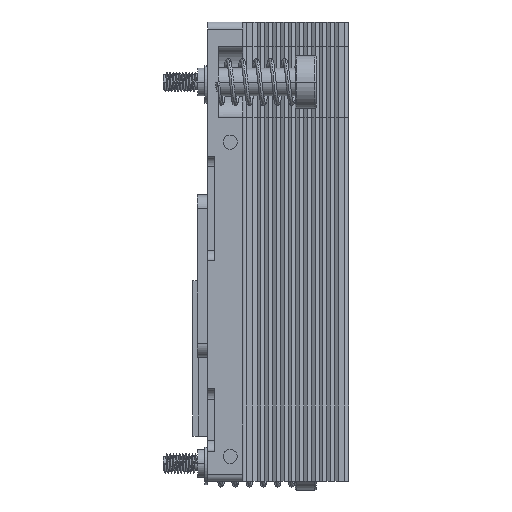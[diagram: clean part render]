
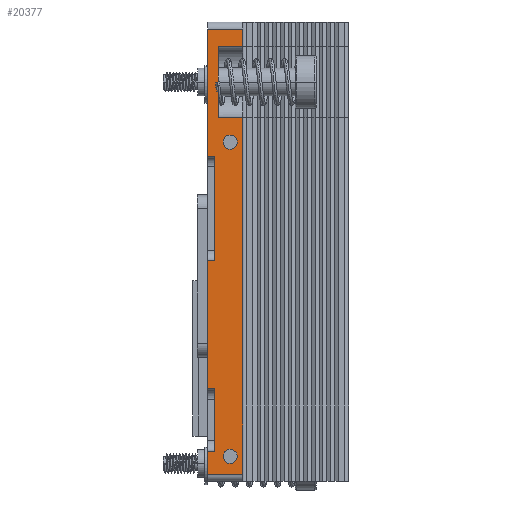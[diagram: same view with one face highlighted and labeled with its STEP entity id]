
A CAD part, left-side view. The second image highlights one B-rep face of the part: STEP entity #20377.
In plain terms, the highlighted planar face has unit normal (-1, 0, 0) as drawn and (1, 0, 0) by its records, which use the part's own axes.
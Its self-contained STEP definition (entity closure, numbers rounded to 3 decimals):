
#2918=DIRECTION('',(0.,0.,1.));
#2919=VECTOR('',#2918,50.5);
#2920=CARTESIAN_POINT('',(35.,8.,-31.5));
#2921=LINE('',#2920,#2919);
#2939=DIRECTION('',(0.,0.,1.));
#2940=VECTOR('',#2939,2.5);
#2941=CARTESIAN_POINT('',(35.,8.,29.));
#2942=LINE('',#2941,#2940);
#3401=DIRECTION('',(0.,-1.,0.));
#3402=VECTOR('',#3401,5.);
#3403=CARTESIAN_POINT('',(35.,8.,-31.5));
#3404=LINE('',#3403,#3402);
#3405=DIRECTION('',(0.,0.,1.));
#3406=VECTOR('',#3405,3.267);
#3407=CARTESIAN_POINT('',(35.,3.,-31.5));
#3408=LINE('',#3407,#3406);
#3409=DIRECTION('',(0.,1.,0.));
#3410=VECTOR('',#3409,1.);
#3411=CARTESIAN_POINT('',(35.,3.,-28.233));
#3412=LINE('',#3411,#3410);
#3413=DIRECTION('',(0.,0.,-1.));
#3414=VECTOR('',#3413,8.8);
#3415=CARTESIAN_POINT('',(35.,4.,-19.433));
#3416=LINE('',#3415,#3414);
#3417=DIRECTION('',(0.,1.,0.));
#3418=VECTOR('',#3417,1.);
#3419=CARTESIAN_POINT('',(35.,3.,-19.433));
#3420=LINE('',#3419,#3418);
#3421=DIRECTION('',(0.,0.,1.));
#3422=VECTOR('',#3421,18.136);
#3423=CARTESIAN_POINT('',(35.,3.,-19.433));
#3424=LINE('',#3423,#3422);
#3425=DIRECTION('',(0.,1.,0.));
#3426=VECTOR('',#3425,1.);
#3427=CARTESIAN_POINT('',(35.,3.,-1.297));
#3428=LINE('',#3427,#3426);
#3429=DIRECTION('',(0.,0.,-1.));
#3430=VECTOR('',#3429,14.8);
#3431=CARTESIAN_POINT('',(35.,4.,13.503));
#3432=LINE('',#3431,#3430);
#3433=DIRECTION('',(0.,1.,0.));
#3434=VECTOR('',#3433,1.);
#3435=CARTESIAN_POINT('',(35.,3.,13.503));
#3436=LINE('',#3435,#3434);
#3437=DIRECTION('',(0.,0.,1.));
#3438=VECTOR('',#3437,17.997);
#3439=CARTESIAN_POINT('',(35.,3.,13.503));
#3440=LINE('',#3439,#3438);
#3441=DIRECTION('',(0.,1.,0.));
#3442=VECTOR('',#3441,5.);
#3443=CARTESIAN_POINT('',(35.,3.,31.5));
#3444=LINE('',#3443,#3442);
#3445=DIRECTION('',(0.,-1.,0.));
#3446=VECTOR('',#3445,3.5);
#3447=CARTESIAN_POINT('',(35.,8.,29.));
#3448=LINE('',#3447,#3446);
#3449=DIRECTION('',(0.,0.,1.));
#3450=VECTOR('',#3449,10.);
#3451=CARTESIAN_POINT('',(35.,4.5,19.));
#3452=LINE('',#3451,#3450);
#3453=DIRECTION('',(0.,-1.,0.));
#3454=VECTOR('',#3453,3.5);
#3455=CARTESIAN_POINT('',(35.,8.,19.));
#3456=LINE('',#3455,#3454);
#3457=CARTESIAN_POINT('',(35.,6.2,-29.));
#3458=DIRECTION('',(1.,0.,0.));
#3459=DIRECTION('',(0.,0.,-1.));
#3460=AXIS2_PLACEMENT_3D('',#3457,#3458,#3459);
#3462=CARTESIAN_POINT('',(35.,6.2,-29.));
#3463=DIRECTION('',(1.,0.,0.));
#3464=DIRECTION('',(0.,0.,1.));
#3465=AXIS2_PLACEMENT_3D('',#3462,#3463,#3464);
#3467=CARTESIAN_POINT('',(35.,6.2,15.5));
#3468=DIRECTION('',(1.,0.,0.));
#3469=DIRECTION('',(0.,0.,-1.));
#3470=AXIS2_PLACEMENT_3D('',#3467,#3468,#3469);
#3472=CARTESIAN_POINT('',(35.,6.2,15.5));
#3473=DIRECTION('',(1.,0.,0.));
#3474=DIRECTION('',(0.,0.,1.));
#3475=AXIS2_PLACEMENT_3D('',#3472,#3473,#3474);
#16536=CARTESIAN_POINT('',(35.,4.5,19.));
#16537=VERTEX_POINT('',#16536);
#16538=CARTESIAN_POINT('',(35.,4.5,29.));
#16539=VERTEX_POINT('',#16538);
#16968=CARTESIAN_POINT('',(35.,3.,-19.433));
#16969=VERTEX_POINT('',#16968);
#16970=CARTESIAN_POINT('',(35.,3.,-28.233));
#16971=VERTEX_POINT('',#16970);
#16974=CARTESIAN_POINT('',(35.,3.,13.503));
#16975=VERTEX_POINT('',#16974);
#16976=CARTESIAN_POINT('',(35.,3.,-1.297));
#16977=VERTEX_POINT('',#16976);
#16978=CARTESIAN_POINT('',(35.,4.,13.503));
#16979=VERTEX_POINT('',#16978);
#16980=CARTESIAN_POINT('',(35.,4.,-1.297));
#16981=VERTEX_POINT('',#16980);
#16990=CARTESIAN_POINT('',(35.,4.,-19.433));
#16991=VERTEX_POINT('',#16990);
#16992=CARTESIAN_POINT('',(35.,4.,-28.233));
#16993=VERTEX_POINT('',#16992);
#17659=CARTESIAN_POINT('',(35.,8.,19.));
#17661=VERTEX_POINT('',#17659);
#17663=CARTESIAN_POINT('',(35.,8.,29.));
#17665=VERTEX_POINT('',#17663);
#17885=CARTESIAN_POINT('',(35.,3.,-31.5));
#17887=VERTEX_POINT('',#17885);
#17888=CARTESIAN_POINT('',(35.,8.,-31.5));
#17889=VERTEX_POINT('',#17888);
#17901=CARTESIAN_POINT('',(35.,8.,31.5));
#17903=VERTEX_POINT('',#17901);
#17904=CARTESIAN_POINT('',(35.,3.,31.5));
#17905=VERTEX_POINT('',#17904);
#17978=CARTESIAN_POINT('',(35.,6.2,-30.));
#17979=CARTESIAN_POINT('',(35.,6.2,-28.));
#17980=VERTEX_POINT('',#17978);
#17981=VERTEX_POINT('',#17979);
#17982=CARTESIAN_POINT('',(35.,6.2,14.5));
#17983=CARTESIAN_POINT('',(35.,6.2,16.5));
#17984=VERTEX_POINT('',#17982);
#17985=VERTEX_POINT('',#17983);
#20335=CARTESIAN_POINT('',(35.,23.,32.5));
#20336=DIRECTION('',(-1.,0.,0.));
#20337=DIRECTION('',(0.,-1.,0.));
#20338=AXIS2_PLACEMENT_3D('',#20335,#20336,#20337);
#20339=PLANE('',#20338);
#20340=ORIENTED_EDGE('',*,*,#19634,.T.);
#20341=ORIENTED_EDGE('',*,*,#19709,.T.);
#20343=ORIENTED_EDGE('',*,*,#20342,.T.);
#20345=ORIENTED_EDGE('',*,*,#20344,.F.);
#20347=ORIENTED_EDGE('',*,*,#20346,.F.);
#20348=ORIENTED_EDGE('',*,*,#19697,.T.);
#20350=ORIENTED_EDGE('',*,*,#20349,.T.);
#20352=ORIENTED_EDGE('',*,*,#20351,.F.);
#20354=ORIENTED_EDGE('',*,*,#20353,.F.);
#20355=ORIENTED_EDGE('',*,*,#19685,.T.);
#20356=ORIENTED_EDGE('',*,*,#19585,.T.);
#20357=ORIENTED_EDGE('',*,*,#19622,.F.);
#20358=ORIENTED_EDGE('',*,*,#20113,.T.);
#20359=ORIENTED_EDGE('',*,*,#19987,.F.);
#20361=ORIENTED_EDGE('',*,*,#20360,.F.);
#20362=ORIENTED_EDGE('',*,*,#19600,.F.);
#20363=EDGE_LOOP('',(#20340,#20341,#20343,#20345,#20347,#20348,#20350,#20352,
#20354,#20355,#20356,#20357,#20358,#20359,#20361,#20362));
#20364=FACE_OUTER_BOUND('',#20363,.F.);
#20366=ORIENTED_EDGE('',*,*,#20365,.T.);
#20368=ORIENTED_EDGE('',*,*,#20367,.T.);
#20369=EDGE_LOOP('',(#20366,#20368));
#20370=FACE_BOUND('',#20369,.F.);
#20372=ORIENTED_EDGE('',*,*,#20371,.T.);
#20374=ORIENTED_EDGE('',*,*,#20373,.T.);
#20375=EDGE_LOOP('',(#20372,#20374));
#20376=FACE_BOUND('',#20375,.F.);
#20377=ADVANCED_FACE('',(#20364,#20370,#20376),#20339,.F.);
#3461=CIRCLE('',#3460,1.);
#3466=CIRCLE('',#3465,1.);
#3471=CIRCLE('',#3470,1.);
#3476=CIRCLE('',#3475,1.);
#19585=EDGE_CURVE('',#17905,#17903,#3444,.T.);
#19600=EDGE_CURVE('',#17889,#17661,#2921,.T.);
#19622=EDGE_CURVE('',#17665,#17903,#2942,.T.);
#19634=EDGE_CURVE('',#17889,#17887,#3404,.T.);
#19685=EDGE_CURVE('',#16975,#17905,#3440,.T.);
#19697=EDGE_CURVE('',#16969,#16977,#3424,.T.);
#19709=EDGE_CURVE('',#17887,#16971,#3408,.T.);
#19987=EDGE_CURVE('',#16537,#16539,#3452,.T.);
#20113=EDGE_CURVE('',#17665,#16539,#3448,.T.);
#20342=EDGE_CURVE('',#16971,#16993,#3412,.T.);
#20344=EDGE_CURVE('',#16991,#16993,#3416,.T.);
#20346=EDGE_CURVE('',#16969,#16991,#3420,.T.);
#20349=EDGE_CURVE('',#16977,#16981,#3428,.T.);
#20351=EDGE_CURVE('',#16979,#16981,#3432,.T.);
#20353=EDGE_CURVE('',#16975,#16979,#3436,.T.);
#20360=EDGE_CURVE('',#17661,#16537,#3456,.T.);
#20365=EDGE_CURVE('',#17980,#17981,#3461,.T.);
#20367=EDGE_CURVE('',#17981,#17980,#3466,.T.);
#20371=EDGE_CURVE('',#17984,#17985,#3471,.T.);
#20373=EDGE_CURVE('',#17985,#17984,#3476,.T.);
